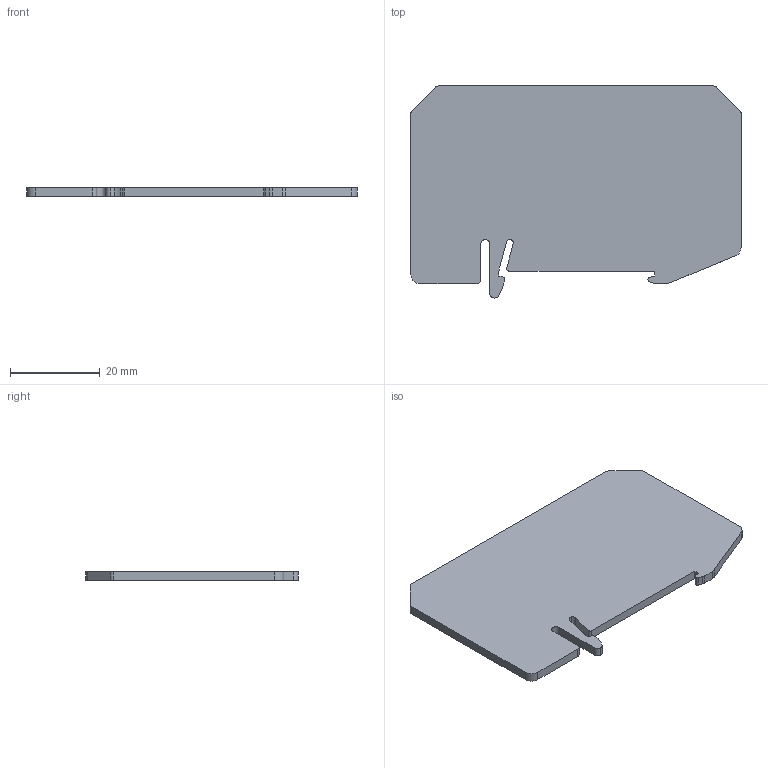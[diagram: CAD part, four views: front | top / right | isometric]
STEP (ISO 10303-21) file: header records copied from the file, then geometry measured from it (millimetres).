
FILE_DESCRIPTION(('OneSpaceDesigner STEP Export'),'2;1');
FILE_NAME('3024481_atp_st6-select.stp','2004-10-01T13:21:23',(''),(''),'OneSpace Designer STEP processor (Jan. 2003) for AP203(Solid Model)','OneSpace Designer 12.01C 26-Mar-2004 (C) CoCreate Software GmbH','');
FILE_SCHEMA(('CONFIG_CONTROL_DESIGN'));
Length unit declared in the file: millimetre
Products named in the file (1): 3024481_atp_st6-select
Bounding box: 73.5 x 47.2 x 2 mm (x, y, z)
Volume: 6057.6 mm3; surface area: 6593 mm2
Topology: 1 solids, 1 shells, 43 faces, 123 edges, 82 vertices
Faces by surface type: plane 23, cylinder 20
Entity records: 1469 total; most frequent: ORIENTED_EDGE 246, CARTESIAN_POINT 240, DIRECTION 233, EDGE_CURVE 123, VECTOR 83, LINE 83, VERTEX_POINT 82, AXIS2_PLACEMENT_3D 75
